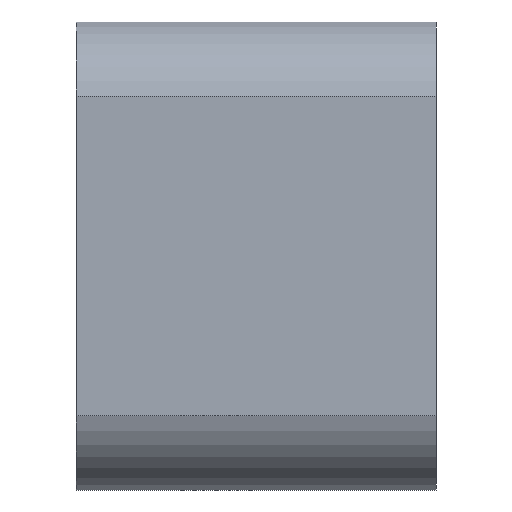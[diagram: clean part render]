
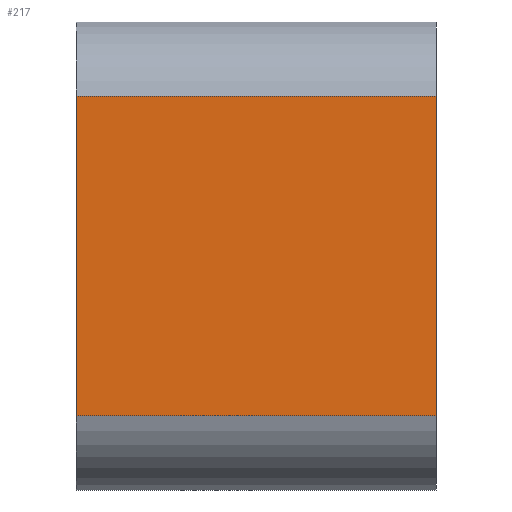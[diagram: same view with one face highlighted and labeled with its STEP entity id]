
A CAD part, left-side view. The second image highlights one B-rep face of the part: STEP entity #217.
In plain terms, the highlighted planar face has unit normal (-1, 0, 0).
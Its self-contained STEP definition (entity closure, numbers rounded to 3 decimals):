
#5 = LINE ( 'NONE', #246, #450 ) ;
#18 = CARTESIAN_POINT ( 'NONE',  ( -16.5, 30., -49.093 ) ) ;
#36 = EDGE_LOOP ( 'NONE', ( #467, #323, #143, #269 ) ) ;
#48 = DIRECTION ( 'NONE',  ( 0., -1., 0. ) ) ;
#61 = VERTEX_POINT ( 'NONE', #95 ) ;
#64 = EDGE_CURVE ( 'NONE', #196, #65, #5, .T. ) ;
#65 = VERTEX_POINT ( 'NONE', #462 ) ;
#95 = CARTESIAN_POINT ( 'NONE',  ( -16.5, 30., 4.093 ) ) ;
#107 = DIRECTION ( 'NONE',  ( 0., 1., 0. ) ) ;
#136 = CARTESIAN_POINT ( 'NONE',  ( -16.5, 30., -61.5 ) ) ;
#143 = ORIENTED_EDGE ( 'NONE', *, *, #176, .T. ) ;
#149 = DIRECTION ( 'NONE',  ( 0., 0., -1. ) ) ;
#164 = VERTEX_POINT ( 'NONE', #18 ) ;
#176 = EDGE_CURVE ( 'NONE', #61, #164, #469, .T. ) ;
#196 = VERTEX_POINT ( 'NONE', #483 ) ;
#203 = VECTOR ( 'NONE', #107, 1000. ) ;
#210 = DIRECTION ( 'NONE',  ( 0., 0., -1. ) ) ;
#217 = ADVANCED_FACE ( 'NONE', ( #419 ), #266, .F. ) ;
#225 = CARTESIAN_POINT ( 'NONE',  ( -16.5, 30., -49.093 ) ) ;
#241 = VECTOR ( 'NONE', #48, 1000. ) ;
#246 = CARTESIAN_POINT ( 'NONE',  ( -16.5, -30., -45. ) ) ;
#250 = DIRECTION ( 'NONE',  ( 0., 0., -1. ) ) ;
#266 = PLANE ( 'NONE',  #279 ) ;
#269 = ORIENTED_EDGE ( 'NONE', *, *, #319, .F. ) ;
#277 = LINE ( 'NONE', #431, #241 ) ;
#279 = AXIS2_PLACEMENT_3D ( 'NONE', #416, #411, #149 ) ;
#319 = EDGE_CURVE ( 'NONE', #65, #164, #445, .T. ) ;
#323 = ORIENTED_EDGE ( 'NONE', *, *, #393, .F. ) ;
#393 = EDGE_CURVE ( 'NONE', #61, #196, #277, .T. ) ;
#411 = DIRECTION ( 'NONE',  ( 1., 0., 0. ) ) ;
#416 = CARTESIAN_POINT ( 'NONE',  ( -16.5, -30., -61.5 ) ) ;
#419 = FACE_OUTER_BOUND ( 'NONE', #36, .T. ) ;
#431 = CARTESIAN_POINT ( 'NONE',  ( -16.5, 30., 4.093 ) ) ;
#445 = LINE ( 'NONE', #225, #203 ) ;
#450 = VECTOR ( 'NONE', #210, 1000. ) ;
#462 = CARTESIAN_POINT ( 'NONE',  ( -16.5, -30., -49.093 ) ) ;
#463 = VECTOR ( 'NONE', #250, 1000. ) ;
#467 = ORIENTED_EDGE ( 'NONE', *, *, #64, .F. ) ;
#469 = LINE ( 'NONE', #136, #463 ) ;
#483 = CARTESIAN_POINT ( 'NONE',  ( -16.5, -30., 4.093 ) ) ;
